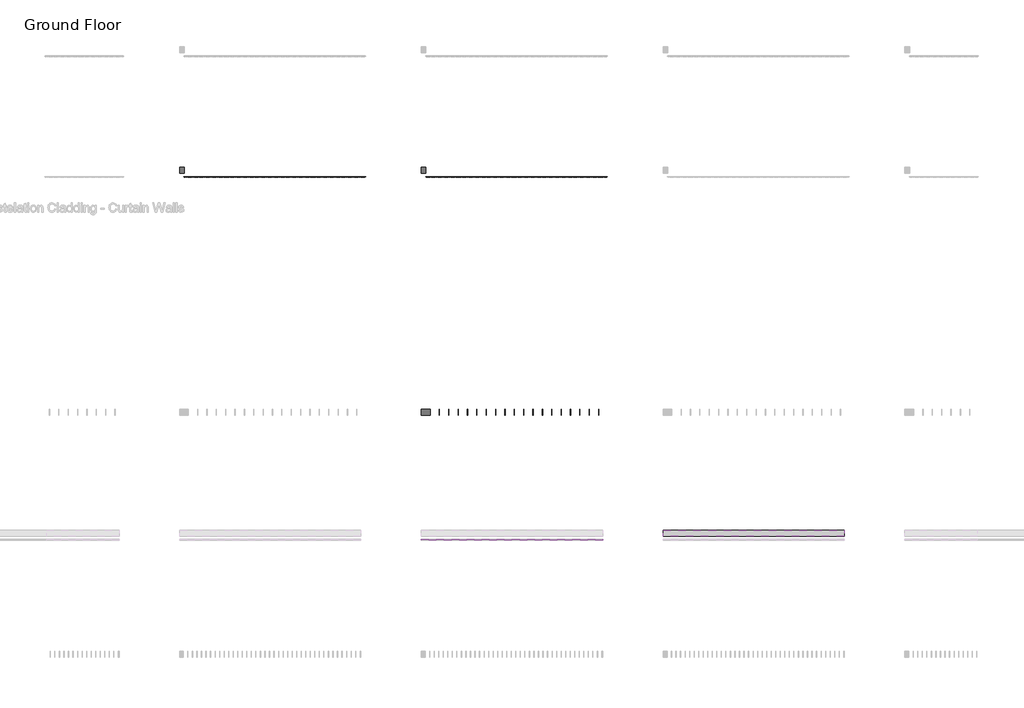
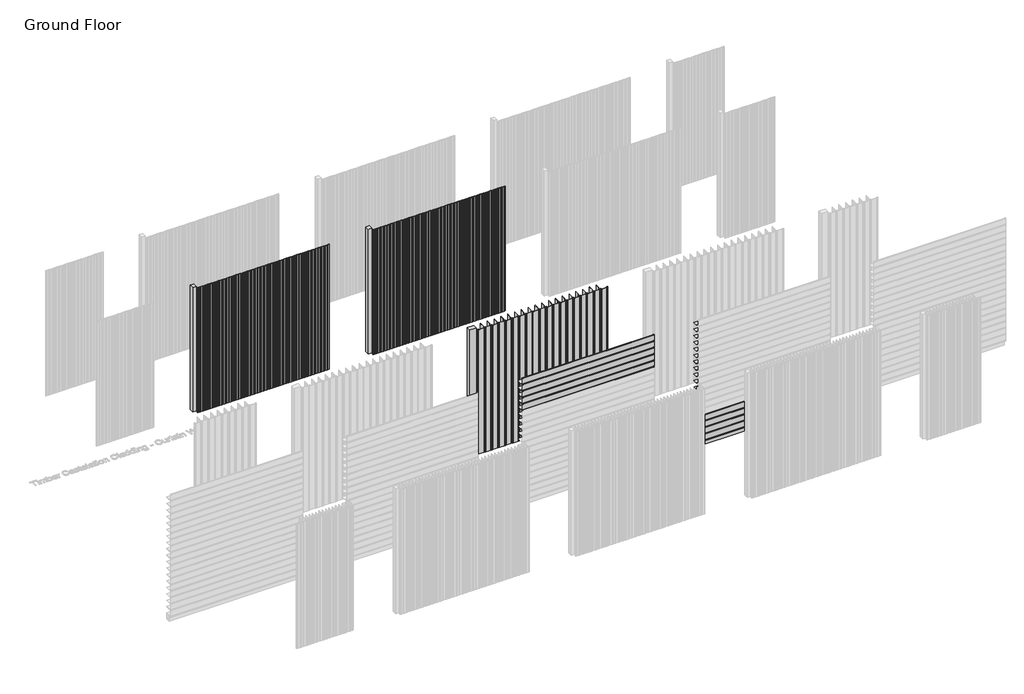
# One storey, part 38 of 350: 102 members, 40 plates.
"""IFC4 building model written with IfcOpenShell, lengths in millimetres."""

from ifc_helpers import new_model, si_unit, origin, place, context, project, spatial, transform, mapped, element, save
from components import rectangular_mullion_a9feb706, rectangular_mullion_4aa68164, empty_system_panel_empty_02c6fd44, empty_system_panel_empty_27b459cb, empty_system_panel_empty_b4bf5bb1, empty_system_panel_empty_81d7e91e, empty_system_panel_empty_cbd4e42b

model = new_model("IFC4")

# Units and contexts
model_context = context("Model", 3, world=origin())
ifc_project = project(units=[si_unit("LENGTHUNIT", "METRE", prefix="MILLI")], contexts=[model_context])

# Site, building, storey
site = spatial("IfcSite", under=ifc_project)
building = spatial("IfcBuilding", under=site)
storey = spatial("IfcBuildingStorey", under=building, Name="Ground Floor", Elevation=0.0)

# Members
placement = place(None, origin())
rectangular_mullion_shape = rectangular_mullion_a9feb706(model_context)
element("IfcMember", 1, ObjectType="Rectangular Mullion : Cladding_Aluminium_Modinex_AluSelekta_Channel_155_EnglishOak", at=placement, inside=storey, context=model_context, shape_type="MappedRepresentation", body=[
    mapped(rectangular_mullion_shape, transform((39916.4361639, 16968.2978302, 2325.0), x_axis=(0.0, 0.0, 1.0), y_axis=(0.0, -1.0, 0.0), z_axis=(1.0, 0.0, 0.0))),
])
element("IfcMember", 2, ObjectType="Rectangular Mullion : Cladding_Aluminium_Modinex_AluSelekta_Channel_155_EnglishOak", at=placement, inside=storey, context=model_context, shape_type="MappedRepresentation", body=[
    mapped(rectangular_mullion_shape, transform((39916.4361639, 16968.2978302, 2480.0), x_axis=(0.0, 0.0, 1.0), y_axis=(0.0, -1.0, 0.0), z_axis=(1.0, 0.0, 0.0))),
])
element("IfcMember", 3, ObjectType="Rectangular Mullion : Cladding_Aluminium_Modinex_AluSelekta_Channel_155_EnglishOak", at=placement, inside=storey, context=model_context, shape_type="MappedRepresentation", body=[
    mapped(rectangular_mullion_shape, transform((39916.4361639, 16968.2978302, 2635.0), x_axis=(0.0, 0.0, 1.0), y_axis=(0.0, -1.0, 0.0), z_axis=(1.0, 0.0, 0.0))),
])
element("IfcMember", 4, ObjectType="Rectangular Mullion : Cladding_Aluminium_Modinex_AluSelekta_Channel_155_EnglishOak", at=placement, inside=storey, context=model_context, shape_type="MappedRepresentation", body=[
    mapped(rectangular_mullion_shape, transform((39916.4361639, 16968.2978302, 2790.0), x_axis=(0.0, 0.0, 1.0), y_axis=(0.0, -1.0, 0.0), z_axis=(1.0, 0.0, 0.0))),
])
element("IfcMember", 5, ObjectType="Rectangular Mullion : Cladding_Aluminium_Modinex_AluSelekta_Channel_155_EnglishOak", at=placement, inside=storey, context=model_context, shape_type="MappedRepresentation", body=[
    mapped(rectangular_mullion_shape, transform((39916.4361639, 16968.2978302, 2945.0), x_axis=(0.0, 0.0, 1.0), y_axis=(0.0, -1.0, 0.0), z_axis=(1.0, 0.0, 0.0))),
])
element("IfcMember", 6, ObjectType="Rectangular Mullion : Cladding_Aluminium_Modinex_AluSelekta_Channel_155_EnglishOak", at=placement, inside=storey, context=model_context, shape_type="MappedRepresentation", body=[
    mapped(rectangular_mullion_shape, transform((37226.4361642, 18968.2978302, 0.0), x_axis=(1.0, 0.0, 0.0), y_axis=(0.0, -1.0, 0.0), z_axis=(0.0, 0.0, -1.0))),
])
element("IfcMember", 7, ObjectType="Rectangular Mullion : Cladding_Aluminium_Modinex_AluSelekta_Channel_155_EnglishOak", at=placement, inside=storey, context=model_context, shape_type="MappedRepresentation", body=[
    mapped(rectangular_mullion_shape, transform((37381.4361642, 18968.2978302, 0.0), x_axis=(1.0, 0.0, 0.0), y_axis=(0.0, -1.0, 0.0), z_axis=(0.0, 0.0, -1.0))),
])
element("IfcMember", 8, ObjectType="Rectangular Mullion : Cladding_Aluminium_Modinex_AluSelekta_Channel_155_EnglishOak", at=placement, inside=storey, context=model_context, shape_type="MappedRepresentation", body=[
    mapped(rectangular_mullion_shape, transform((37536.4361642, 18968.2978302, 0.0), x_axis=(1.0, 0.0, 0.0), y_axis=(0.0, -1.0, 0.0), z_axis=(0.0, 0.0, -1.0))),
])
element("IfcMember", 9, ObjectType="Rectangular Mullion : Cladding_Aluminium_Modinex_AluSelekta_Channel_155_EnglishOak", at=placement, inside=storey, context=model_context, shape_type="MappedRepresentation", body=[
    mapped(rectangular_mullion_shape, transform((37691.4361642, 18968.2978302, 0.0), x_axis=(1.0, 0.0, 0.0), y_axis=(0.0, -1.0, 0.0), z_axis=(0.0, 0.0, -1.0))),
])
element("IfcMember", 10, ObjectType="Rectangular Mullion : Cladding_Aluminium_Modinex_AluSelekta_Channel_155_EnglishOak", at=placement, inside=storey, context=model_context, shape_type="MappedRepresentation", body=[
    mapped(rectangular_mullion_shape, transform((37846.4361642, 18968.2978302, 0.0), x_axis=(1.0, 0.0, 0.0), y_axis=(0.0, -1.0, 0.0), z_axis=(0.0, 0.0, -1.0))),
])
element("IfcMember", 11, ObjectType="Rectangular Mullion : Cladding_Aluminium_Modinex_AluSelekta_Channel_155_EnglishOak", at=placement, inside=storey, context=model_context, shape_type="MappedRepresentation", body=[
    mapped(rectangular_mullion_shape, transform((38001.4361642, 18968.2978302, 0.0), x_axis=(1.0, 0.0, 0.0), y_axis=(0.0, -1.0, 0.0), z_axis=(0.0, 0.0, -1.0))),
])
element("IfcMember", 12, ObjectType="Rectangular Mullion : Cladding_Aluminium_Modinex_AluSelekta_Channel_155_EnglishOak", at=placement, inside=storey, context=model_context, shape_type="MappedRepresentation", body=[
    mapped(rectangular_mullion_shape, transform((38156.4361642, 18968.2978302, 0.0), x_axis=(1.0, 0.0, 0.0), y_axis=(0.0, -1.0, 0.0), z_axis=(0.0, 0.0, -1.0))),
])
element("IfcMember", 13, ObjectType="Rectangular Mullion : Cladding_Aluminium_Modinex_AluSelekta_Channel_155_EnglishOak", at=placement, inside=storey, context=model_context, shape_type="MappedRepresentation", body=[
    mapped(rectangular_mullion_shape, transform((38311.4361642, 18968.2978302, 0.0), x_axis=(1.0, 0.0, 0.0), y_axis=(0.0, -1.0, 0.0), z_axis=(0.0, 0.0, -1.0))),
])
element("IfcMember", 14, ObjectType="Rectangular Mullion : Cladding_Aluminium_Modinex_AluSelekta_Channel_155_EnglishOak", at=placement, inside=storey, context=model_context, shape_type="MappedRepresentation", body=[
    mapped(rectangular_mullion_shape, transform((38466.4361642, 18968.2978302, 0.0), x_axis=(1.0, 0.0, 0.0), y_axis=(0.0, -1.0, 0.0), z_axis=(0.0, 0.0, -1.0))),
])
element("IfcMember", 15, ObjectType="Rectangular Mullion : Cladding_Aluminium_Modinex_AluSelekta_Channel_155_EnglishOak", at=placement, inside=storey, context=model_context, shape_type="MappedRepresentation", body=[
    mapped(rectangular_mullion_shape, transform((38621.4361642, 18968.2978302, 0.0), x_axis=(1.0, 0.0, 0.0), y_axis=(0.0, -1.0, 0.0), z_axis=(0.0, 0.0, -1.0))),
])
element("IfcMember", 16, ObjectType="Rectangular Mullion : Cladding_Aluminium_Modinex_AluSelekta_Channel_155_EnglishOak", at=placement, inside=storey, context=model_context, shape_type="MappedRepresentation", body=[
    mapped(rectangular_mullion_shape, transform((38776.4361642, 18968.2978302, 0.0), x_axis=(1.0, 0.0, 0.0), y_axis=(0.0, -1.0, 0.0), z_axis=(0.0, 0.0, -1.0))),
])
element("IfcMember", 17, ObjectType="Rectangular Mullion : Cladding_Aluminium_Modinex_AluSelekta_Channel_155_EnglishOak", at=placement, inside=storey, context=model_context, shape_type="MappedRepresentation", body=[
    mapped(rectangular_mullion_shape, transform((38931.4361642, 18968.2978302, 0.0), x_axis=(1.0, 0.0, 0.0), y_axis=(0.0, -1.0, 0.0), z_axis=(0.0, 0.0, -1.0))),
])
element("IfcMember", 18, ObjectType="Rectangular Mullion : Cladding_Aluminium_Modinex_AluSelekta_Channel_155_EnglishOak", at=placement, inside=storey, context=model_context, shape_type="MappedRepresentation", body=[
    mapped(rectangular_mullion_shape, transform((39086.4361642, 18968.2978302, 0.0), x_axis=(1.0, 0.0, 0.0), y_axis=(0.0, -1.0, 0.0), z_axis=(0.0, 0.0, -1.0))),
])
element("IfcMember", 19, ObjectType="Rectangular Mullion : Cladding_Aluminium_Modinex_AluSelekta_Channel_155_EnglishOak", at=placement, inside=storey, context=model_context, shape_type="MappedRepresentation", body=[
    mapped(rectangular_mullion_shape, transform((39241.4361642, 18968.2978302, 0.0), x_axis=(1.0, 0.0, 0.0), y_axis=(0.0, -1.0, 0.0), z_axis=(0.0, 0.0, -1.0))),
])
element("IfcMember", 20, ObjectType="Rectangular Mullion : Cladding_Aluminium_Modinex_AluSelekta_Channel_155_EnglishOak", at=placement, inside=storey, context=model_context, shape_type="MappedRepresentation", body=[
    mapped(rectangular_mullion_shape, transform((39396.4361642, 18968.2978302, 0.0), x_axis=(1.0, 0.0, 0.0), y_axis=(0.0, -1.0, 0.0), z_axis=(0.0, 0.0, -1.0))),
])
element("IfcMember", 21, ObjectType="Rectangular Mullion : Cladding_Aluminium_Modinex_AluSelekta_Channel_155_EnglishOak", at=placement, inside=storey, context=model_context, shape_type="MappedRepresentation", body=[
    mapped(rectangular_mullion_shape, transform((39551.4361642, 18968.2978302, 0.0), x_axis=(1.0, 0.0, 0.0), y_axis=(0.0, -1.0, 0.0), z_axis=(0.0, 0.0, -1.0))),
])
element("IfcMember", 22, ObjectType="Rectangular Mullion : Cladding_Aluminium_Modinex_AluSelekta_Channel_155_EnglishOak", at=placement, inside=storey, context=model_context, shape_type="MappedRepresentation", body=[
    mapped(rectangular_mullion_shape, transform((39706.4361642, 18968.2978302, 0.0), x_axis=(1.0, 0.0, 0.0), y_axis=(0.0, -1.0, 0.0), z_axis=(0.0, 0.0, -1.0))),
])
element("IfcMember", 23, ObjectType="Rectangular Mullion : Cladding_Aluminium_Modinex_AluSelekta_Channel_155_EnglishOak", at=placement, inside=storey, context=model_context, shape_type="MappedRepresentation", body=[
    mapped(rectangular_mullion_shape, transform((39861.4361642, 18968.2978302, 0.0), x_axis=(1.0, 0.0, 0.0), y_axis=(0.0, -1.0, 0.0), z_axis=(0.0, 0.0, -1.0))),
])
element("IfcMember", 24, ObjectType="Rectangular Mullion : Cladding_Aluminium_Modinex_AluSelekta_Channel_155_EnglishOak", at=placement, inside=storey, context=model_context, shape_type="MappedRepresentation", body=[
    mapped(rectangular_mullion_shape, transform((37071.4361642, 18968.2978302, 0.0), x_axis=(1.0, 0.0, 0.0), y_axis=(0.0, -1.0, 0.0), z_axis=(0.0, 0.0, -1.0))),
])
element("IfcMember", 25, ObjectType="Rectangular Mullion : Cladding_Aluminium_Modinex_AluSelekta_Channel_155_SpottedGum", at=placement, inside=storey, context=model_context, shape_type="MappedRepresentation", body=[
    mapped(rectangular_mullion_shape, transform((43916.4361639, 16968.2978302, 155.0), x_axis=(0.0, 0.0, 1.0), y_axis=(0.0, -1.0, 0.0), z_axis=(1.0, 0.0, 0.0))),
])
element("IfcMember", 26, ObjectType="Rectangular Mullion : Cladding_Aluminium_Modinex_AluSelekta_Channel_155_SpottedGum", at=placement, inside=storey, context=model_context, shape_type="MappedRepresentation", body=[
    mapped(rectangular_mullion_shape, transform((43916.4361639, 16968.2978302, 310.0), x_axis=(0.0, 0.0, 1.0), y_axis=(0.0, -1.0, 0.0), z_axis=(1.0, 0.0, 0.0))),
])
element("IfcMember", 27, ObjectType="Rectangular Mullion : Cladding_Aluminium_Modinex_AluSelekta_Channel_155_SpottedGum", at=placement, inside=storey, context=model_context, shape_type="MappedRepresentation", body=[
    mapped(rectangular_mullion_shape, transform((43916.4361639, 16968.2978302, 465.0), x_axis=(0.0, 0.0, 1.0), y_axis=(0.0, -1.0, 0.0), z_axis=(1.0, 0.0, 0.0))),
])
element("IfcMember", 28, ObjectType="Rectangular Mullion : Cladding_Aluminium_Modinex_AluSelekta_Channel_155_SpottedGum", at=placement, inside=storey, context=model_context, shape_type="MappedRepresentation", body=[
    mapped(rectangular_mullion_shape, transform((43916.4361639, 16968.2978302, 620.0), x_axis=(0.0, 0.0, 1.0), y_axis=(0.0, -1.0, 0.0), z_axis=(1.0, 0.0, 0.0))),
])
rectangular_mullion_2_shape = rectangular_mullion_4aa68164(model_context)
element("IfcMember", 29, ObjectType="Rectangular Mullion : Cladding_Timber_Modinex_Castelation_81x12_Blackbutt", at=placement, inside=storey, context=model_context, shape_type="MappedRepresentation", body=[
    mapped(rectangular_mullion_2_shape, transform((34536.4361642, 22968.2978302, 0.0), x_axis=(1.0, 0.0, 0.0), y_axis=(0.0, -1.0, 0.0), z_axis=(0.0, 0.0, -1.0))),
])
element("IfcMember", 30, ObjectType="Rectangular Mullion : Cladding_Timber_Modinex_Castelation_81x12_Blackbutt", at=placement, inside=storey, context=model_context, shape_type="MappedRepresentation", body=[
    mapped(rectangular_mullion_2_shape, transform((34617.4361642, 22968.2978302, 0.0), x_axis=(1.0, 0.0, 0.0), y_axis=(0.0, -1.0, 0.0), z_axis=(0.0, 0.0, -1.0))),
])
element("IfcMember", 31, ObjectType="Rectangular Mullion : Cladding_Timber_Modinex_Castelation_81x12_Blackbutt", at=placement, inside=storey, context=model_context, shape_type="MappedRepresentation", body=[
    mapped(rectangular_mullion_2_shape, transform((34698.4361642, 22968.2978302, 0.0), x_axis=(1.0, 0.0, 0.0), y_axis=(0.0, -1.0, 0.0), z_axis=(0.0, 0.0, -1.0))),
])
element("IfcMember", 32, ObjectType="Rectangular Mullion : Cladding_Timber_Modinex_Castelation_81x12_Blackbutt", at=placement, inside=storey, context=model_context, shape_type="MappedRepresentation", body=[
    mapped(rectangular_mullion_2_shape, transform((34779.4361642, 22968.2978302, 0.0), x_axis=(1.0, 0.0, 0.0), y_axis=(0.0, -1.0, 0.0), z_axis=(0.0, 0.0, -1.0))),
])
element("IfcMember", 33, ObjectType="Rectangular Mullion : Cladding_Timber_Modinex_Castelation_81x12_Blackbutt", at=placement, inside=storey, context=model_context, shape_type="MappedRepresentation", body=[
    mapped(rectangular_mullion_2_shape, transform((34860.4361642, 22968.2978302, 0.0), x_axis=(1.0, 0.0, 0.0), y_axis=(0.0, -1.0, 0.0), z_axis=(0.0, 0.0, -1.0))),
])
element("IfcMember", 34, ObjectType="Rectangular Mullion : Cladding_Timber_Modinex_Castelation_81x12_Blackbutt", at=placement, inside=storey, context=model_context, shape_type="MappedRepresentation", body=[
    mapped(rectangular_mullion_2_shape, transform((34941.4361642, 22968.2978302, 0.0), x_axis=(1.0, 0.0, 0.0), y_axis=(0.0, -1.0, 0.0), z_axis=(0.0, 0.0, -1.0))),
])
element("IfcMember", 35, ObjectType="Rectangular Mullion : Cladding_Timber_Modinex_Castelation_81x12_Blackbutt", at=placement, inside=storey, context=model_context, shape_type="MappedRepresentation", body=[
    mapped(rectangular_mullion_2_shape, transform((35022.4361642, 22968.2978302, 0.0), x_axis=(1.0, 0.0, 0.0), y_axis=(0.0, -1.0, 0.0), z_axis=(0.0, 0.0, -1.0))),
])
element("IfcMember", 36, ObjectType="Rectangular Mullion : Cladding_Timber_Modinex_Castelation_81x12_Blackbutt", at=placement, inside=storey, context=model_context, shape_type="MappedRepresentation", body=[
    mapped(rectangular_mullion_2_shape, transform((35103.4361642, 22968.2978302, 0.0), x_axis=(1.0, 0.0, 0.0), y_axis=(0.0, -1.0, 0.0), z_axis=(0.0, 0.0, -1.0))),
])
element("IfcMember", 37, ObjectType="Rectangular Mullion : Cladding_Timber_Modinex_Castelation_81x12_Blackbutt", at=placement, inside=storey, context=model_context, shape_type="MappedRepresentation", body=[
    mapped(rectangular_mullion_2_shape, transform((35184.4361642, 22968.2978302, 0.0), x_axis=(1.0, 0.0, 0.0), y_axis=(0.0, -1.0, 0.0), z_axis=(0.0, 0.0, -1.0))),
])
element("IfcMember", 38, ObjectType="Rectangular Mullion : Cladding_Timber_Modinex_Castelation_81x12_Blackbutt", at=placement, inside=storey, context=model_context, shape_type="MappedRepresentation", body=[
    mapped(rectangular_mullion_2_shape, transform((35265.4361642, 22968.2978302, 0.0), x_axis=(1.0, 0.0, 0.0), y_axis=(0.0, -1.0, 0.0), z_axis=(0.0, 0.0, -1.0))),
])
element("IfcMember", 39, ObjectType="Rectangular Mullion : Cladding_Timber_Modinex_Castelation_81x12_Blackbutt", at=placement, inside=storey, context=model_context, shape_type="MappedRepresentation", body=[
    mapped(rectangular_mullion_2_shape, transform((35346.4361642, 22968.2978302, 0.0), x_axis=(1.0, 0.0, 0.0), y_axis=(0.0, -1.0, 0.0), z_axis=(0.0, 0.0, -1.0))),
])
element("IfcMember", 40, ObjectType="Rectangular Mullion : Cladding_Timber_Modinex_Castelation_81x12_Blackbutt", at=placement, inside=storey, context=model_context, shape_type="MappedRepresentation", body=[
    mapped(rectangular_mullion_2_shape, transform((35427.4361642, 22968.2978302, 0.0), x_axis=(1.0, 0.0, 0.0), y_axis=(0.0, -1.0, 0.0), z_axis=(0.0, 0.0, -1.0))),
])
element("IfcMember", 41, ObjectType="Rectangular Mullion : Cladding_Timber_Modinex_Castelation_81x12_Blackbutt", at=placement, inside=storey, context=model_context, shape_type="MappedRepresentation", body=[
    mapped(rectangular_mullion_2_shape, transform((35508.4361642, 22968.2978302, 0.0), x_axis=(1.0, 0.0, 0.0), y_axis=(0.0, -1.0, 0.0), z_axis=(0.0, 0.0, -1.0))),
])
element("IfcMember", 42, ObjectType="Rectangular Mullion : Cladding_Timber_Modinex_Castelation_81x12_Blackbutt", at=placement, inside=storey, context=model_context, shape_type="MappedRepresentation", body=[
    mapped(rectangular_mullion_2_shape, transform((35589.4361642, 22968.2978302, 0.0), x_axis=(1.0, 0.0, 0.0), y_axis=(0.0, -1.0, 0.0), z_axis=(0.0, 0.0, -1.0))),
])
element("IfcMember", 43, ObjectType="Rectangular Mullion : Cladding_Timber_Modinex_Castelation_81x12_Blackbutt", at=placement, inside=storey, context=model_context, shape_type="MappedRepresentation", body=[
    mapped(rectangular_mullion_2_shape, transform((35670.4361642, 22968.2978302, 0.0), x_axis=(1.0, 0.0, 0.0), y_axis=(0.0, -1.0, 0.0), z_axis=(0.0, 0.0, -1.0))),
])
element("IfcMember", 44, ObjectType="Rectangular Mullion : Cladding_Timber_Modinex_Castelation_81x12_Blackbutt", at=placement, inside=storey, context=model_context, shape_type="MappedRepresentation", body=[
    mapped(rectangular_mullion_2_shape, transform((35751.4361642, 22968.2978302, 0.0), x_axis=(1.0, 0.0, 0.0), y_axis=(0.0, -1.0, 0.0), z_axis=(0.0, 0.0, -1.0))),
])
element("IfcMember", 45, ObjectType="Rectangular Mullion : Cladding_Timber_Modinex_Castelation_81x12_Blackbutt", at=placement, inside=storey, context=model_context, shape_type="MappedRepresentation", body=[
    mapped(rectangular_mullion_2_shape, transform((35832.4361642, 22968.2978302, 0.0), x_axis=(1.0, 0.0, 0.0), y_axis=(0.0, -1.0, 0.0), z_axis=(0.0, 0.0, -1.0))),
])
element("IfcMember", 46, ObjectType="Rectangular Mullion : Cladding_Timber_Modinex_Castelation_81x12_Blackbutt", at=placement, inside=storey, context=model_context, shape_type="MappedRepresentation", body=[
    mapped(rectangular_mullion_2_shape, transform((35913.4361642, 22968.2978302, 0.0), x_axis=(1.0, 0.0, 0.0), y_axis=(0.0, -1.0, 0.0), z_axis=(0.0, 0.0, -1.0))),
])
element("IfcMember", 47, ObjectType="Rectangular Mullion : Cladding_Timber_Modinex_Castelation_81x12_Blackbutt", at=placement, inside=storey, context=model_context, shape_type="MappedRepresentation", body=[
    mapped(rectangular_mullion_2_shape, transform((34455.4361642, 22968.2978302, 0.0), x_axis=(1.0, 0.0, 0.0), y_axis=(0.0, -1.0, 0.0), z_axis=(0.0, 0.0, -1.0))),
])
element("IfcMember", 48, ObjectType="Rectangular Mullion : Cladding_Timber_Modinex_Castelation_81x12_Blackbutt", at=placement, inside=storey, context=model_context, shape_type="MappedRepresentation", body=[
    mapped(rectangular_mullion_2_shape, transform((34374.4361642, 22968.2978302, 0.0), x_axis=(1.0, 0.0, 0.0), y_axis=(0.0, -1.0, 0.0), z_axis=(0.0, 0.0, -1.0))),
])
element("IfcMember", 49, ObjectType="Rectangular Mullion : Cladding_Timber_Modinex_Castelation_81x12_Blackbutt", at=placement, inside=storey, context=model_context, shape_type="MappedRepresentation", body=[
    mapped(rectangular_mullion_2_shape, transform((34293.4361642, 22968.2978302, 0.0), x_axis=(1.0, 0.0, 0.0), y_axis=(0.0, -1.0, 0.0), z_axis=(0.0, 0.0, -1.0))),
])
element("IfcMember", 50, ObjectType="Rectangular Mullion : Cladding_Timber_Modinex_Castelation_81x12_Blackbutt", at=placement, inside=storey, context=model_context, shape_type="MappedRepresentation", body=[
    mapped(rectangular_mullion_2_shape, transform((34212.4361642, 22968.2978302, 0.0), x_axis=(1.0, 0.0, 0.0), y_axis=(0.0, -1.0, 0.0), z_axis=(0.0, 0.0, -1.0))),
])
element("IfcMember", 51, ObjectType="Rectangular Mullion : Cladding_Timber_Modinex_Castelation_81x12_Blackbutt", at=placement, inside=storey, context=model_context, shape_type="MappedRepresentation", body=[
    mapped(rectangular_mullion_2_shape, transform((34131.4361642, 22968.2978302, 0.0), x_axis=(1.0, 0.0, 0.0), y_axis=(0.0, -1.0, 0.0), z_axis=(0.0, 0.0, -1.0))),
])
element("IfcMember", 52, ObjectType="Rectangular Mullion : Cladding_Timber_Modinex_Castelation_81x12_Blackbutt", at=placement, inside=storey, context=model_context, shape_type="MappedRepresentation", body=[
    mapped(rectangular_mullion_2_shape, transform((34050.4361642, 22968.2978302, 0.0), x_axis=(1.0, 0.0, 0.0), y_axis=(0.0, -1.0, 0.0), z_axis=(0.0, 0.0, -1.0))),
])
element("IfcMember", 53, ObjectType="Rectangular Mullion : Cladding_Timber_Modinex_Castelation_81x12_Blackbutt", at=placement, inside=storey, context=model_context, shape_type="MappedRepresentation", body=[
    mapped(rectangular_mullion_2_shape, transform((33969.4361642, 22968.2978302, 0.0), x_axis=(1.0, 0.0, 0.0), y_axis=(0.0, -1.0, 0.0), z_axis=(0.0, 0.0, -1.0))),
])
element("IfcMember", 54, ObjectType="Rectangular Mullion : Cladding_Timber_Modinex_Castelation_81x12_Blackbutt", at=placement, inside=storey, context=model_context, shape_type="MappedRepresentation", body=[
    mapped(rectangular_mullion_2_shape, transform((33888.4361642, 22968.2978302, 0.0), x_axis=(1.0, 0.0, 0.0), y_axis=(0.0, -1.0, 0.0), z_axis=(0.0, 0.0, -1.0))),
])
element("IfcMember", 55, ObjectType="Rectangular Mullion : Cladding_Timber_Modinex_Castelation_81x12_Blackbutt", at=placement, inside=storey, context=model_context, shape_type="MappedRepresentation", body=[
    mapped(rectangular_mullion_2_shape, transform((33807.4361642, 22968.2978302, 0.0), x_axis=(1.0, 0.0, 0.0), y_axis=(0.0, -1.0, 0.0), z_axis=(0.0, 0.0, -1.0))),
])
element("IfcMember", 56, ObjectType="Rectangular Mullion : Cladding_Timber_Modinex_Castelation_81x12_Blackbutt", at=placement, inside=storey, context=model_context, shape_type="MappedRepresentation", body=[
    mapped(rectangular_mullion_2_shape, transform((33726.4361642, 22968.2978302, 0.0), x_axis=(1.0, 0.0, 0.0), y_axis=(0.0, -1.0, 0.0), z_axis=(0.0, 0.0, -1.0))),
])
element("IfcMember", 57, ObjectType="Rectangular Mullion : Cladding_Timber_Modinex_Castelation_81x12_Blackbutt", at=placement, inside=storey, context=model_context, shape_type="MappedRepresentation", body=[
    mapped(rectangular_mullion_2_shape, transform((33645.4361642, 22968.2978302, 0.0), x_axis=(1.0, 0.0, 0.0), y_axis=(0.0, -1.0, 0.0), z_axis=(0.0, 0.0, -1.0))),
])
element("IfcMember", 58, ObjectType="Rectangular Mullion : Cladding_Timber_Modinex_Castelation_81x12_Blackbutt", at=placement, inside=storey, context=model_context, shape_type="MappedRepresentation", body=[
    mapped(rectangular_mullion_2_shape, transform((33564.4361642, 22968.2978302, 0.0), x_axis=(1.0, 0.0, 0.0), y_axis=(0.0, -1.0, 0.0), z_axis=(0.0, 0.0, -1.0))),
])
element("IfcMember", 59, ObjectType="Rectangular Mullion : Cladding_Timber_Modinex_Castelation_81x12_Blackbutt", at=placement, inside=storey, context=model_context, shape_type="MappedRepresentation", body=[
    mapped(rectangular_mullion_2_shape, transform((33483.4361642, 22968.2978302, 0.0), x_axis=(1.0, 0.0, 0.0), y_axis=(0.0, -1.0, 0.0), z_axis=(0.0, 0.0, -1.0))),
])
element("IfcMember", 60, ObjectType="Rectangular Mullion : Cladding_Timber_Modinex_Castelation_81x12_Blackbutt", at=placement, inside=storey, context=model_context, shape_type="MappedRepresentation", body=[
    mapped(rectangular_mullion_2_shape, transform((33402.4361642, 22968.2978302, 0.0), x_axis=(1.0, 0.0, 0.0), y_axis=(0.0, -1.0, 0.0), z_axis=(0.0, 0.0, -1.0))),
])
element("IfcMember", 61, ObjectType="Rectangular Mullion : Cladding_Timber_Modinex_Castelation_81x12_Blackbutt", at=placement, inside=storey, context=model_context, shape_type="MappedRepresentation", body=[
    mapped(rectangular_mullion_2_shape, transform((33321.4361642, 22968.2978302, 0.0), x_axis=(1.0, 0.0, 0.0), y_axis=(0.0, -1.0, 0.0), z_axis=(0.0, 0.0, -1.0))),
])
element("IfcMember", 62, ObjectType="Rectangular Mullion : Cladding_Timber_Modinex_Castelation_81x12_Blackbutt", at=placement, inside=storey, context=model_context, shape_type="MappedRepresentation", body=[
    mapped(rectangular_mullion_2_shape, transform((33240.4361642, 22968.2978302, 0.0), x_axis=(1.0, 0.0, 0.0), y_axis=(0.0, -1.0, 0.0), z_axis=(0.0, 0.0, -1.0))),
])
element("IfcMember", 63, ObjectType="Rectangular Mullion : Cladding_Timber_Modinex_Castelation_81x12_Blackbutt", at=placement, inside=storey, context=model_context, shape_type="MappedRepresentation", body=[
    mapped(rectangular_mullion_2_shape, transform((33159.4361642, 22968.2978302, 0.0), x_axis=(1.0, 0.0, 0.0), y_axis=(0.0, -1.0, 0.0), z_axis=(0.0, 0.0, -1.0))),
])
element("IfcMember", 64, ObjectType="Rectangular Mullion : Cladding_Timber_Modinex_Castelation_81x12_Blackbutt", at=placement, inside=storey, context=model_context, shape_type="MappedRepresentation", body=[
    mapped(rectangular_mullion_2_shape, transform((33078.4361642, 22968.2978302, 0.0), x_axis=(1.0, 0.0, 0.0), y_axis=(0.0, -1.0, 0.0), z_axis=(0.0, 0.0, -1.0))),
])
element("IfcMember", 65, ObjectType="Rectangular Mullion : Cladding_Timber_Modinex_Castelation_81x12_Blackbutt", at=placement, inside=storey, context=model_context, shape_type="MappedRepresentation", body=[
    mapped(rectangular_mullion_2_shape, transform((32997.4361642, 22968.2978302, 0.0), x_axis=(1.0, 0.0, 0.0), y_axis=(0.0, -1.0, 0.0), z_axis=(0.0, 0.0, -1.0))),
])
element("IfcMember", 66, ObjectType="Rectangular Mullion : Cladding_Timber_Modinex_Castelation_81x12_Hemlock", at=placement, inside=storey, context=model_context, shape_type="MappedRepresentation", body=[
    mapped(rectangular_mullion_2_shape, transform((38536.4361642, 22968.2978302, 0.0), x_axis=(1.0, 0.0, 0.0), y_axis=(0.0, -1.0, 0.0), z_axis=(0.0, 0.0, -1.0))),
])
element("IfcMember", 67, ObjectType="Rectangular Mullion : Cladding_Timber_Modinex_Castelation_81x12_Hemlock", at=placement, inside=storey, context=model_context, shape_type="MappedRepresentation", body=[
    mapped(rectangular_mullion_2_shape, transform((38617.4361642, 22968.2978302, 0.0), x_axis=(1.0, 0.0, 0.0), y_axis=(0.0, -1.0, 0.0), z_axis=(0.0, 0.0, -1.0))),
])
element("IfcMember", 68, ObjectType="Rectangular Mullion : Cladding_Timber_Modinex_Castelation_81x12_Hemlock", at=placement, inside=storey, context=model_context, shape_type="MappedRepresentation", body=[
    mapped(rectangular_mullion_2_shape, transform((38698.4361642, 22968.2978302, 0.0), x_axis=(1.0, 0.0, 0.0), y_axis=(0.0, -1.0, 0.0), z_axis=(0.0, 0.0, -1.0))),
])
element("IfcMember", 69, ObjectType="Rectangular Mullion : Cladding_Timber_Modinex_Castelation_81x12_Hemlock", at=placement, inside=storey, context=model_context, shape_type="MappedRepresentation", body=[
    mapped(rectangular_mullion_2_shape, transform((38779.4361642, 22968.2978302, 0.0), x_axis=(1.0, 0.0, 0.0), y_axis=(0.0, -1.0, 0.0), z_axis=(0.0, 0.0, -1.0))),
])
element("IfcMember", 70, ObjectType="Rectangular Mullion : Cladding_Timber_Modinex_Castelation_81x12_Hemlock", at=placement, inside=storey, context=model_context, shape_type="MappedRepresentation", body=[
    mapped(rectangular_mullion_2_shape, transform((38860.4361642, 22968.2978302, 0.0), x_axis=(1.0, 0.0, 0.0), y_axis=(0.0, -1.0, 0.0), z_axis=(0.0, 0.0, -1.0))),
])
element("IfcMember", 71, ObjectType="Rectangular Mullion : Cladding_Timber_Modinex_Castelation_81x12_Hemlock", at=placement, inside=storey, context=model_context, shape_type="MappedRepresentation", body=[
    mapped(rectangular_mullion_2_shape, transform((38941.4361642, 22968.2978302, 0.0), x_axis=(1.0, 0.0, 0.0), y_axis=(0.0, -1.0, 0.0), z_axis=(0.0, 0.0, -1.0))),
])
element("IfcMember", 72, ObjectType="Rectangular Mullion : Cladding_Timber_Modinex_Castelation_81x12_Hemlock", at=placement, inside=storey, context=model_context, shape_type="MappedRepresentation", body=[
    mapped(rectangular_mullion_2_shape, transform((39022.4361642, 22968.2978302, 0.0), x_axis=(1.0, 0.0, 0.0), y_axis=(0.0, -1.0, 0.0), z_axis=(0.0, 0.0, -1.0))),
])
element("IfcMember", 73, ObjectType="Rectangular Mullion : Cladding_Timber_Modinex_Castelation_81x12_Hemlock", at=placement, inside=storey, context=model_context, shape_type="MappedRepresentation", body=[
    mapped(rectangular_mullion_2_shape, transform((39103.4361642, 22968.2978302, 0.0), x_axis=(1.0, 0.0, 0.0), y_axis=(0.0, -1.0, 0.0), z_axis=(0.0, 0.0, -1.0))),
])
element("IfcMember", 74, ObjectType="Rectangular Mullion : Cladding_Timber_Modinex_Castelation_81x12_Hemlock", at=placement, inside=storey, context=model_context, shape_type="MappedRepresentation", body=[
    mapped(rectangular_mullion_2_shape, transform((39184.4361642, 22968.2978302, 0.0), x_axis=(1.0, 0.0, 0.0), y_axis=(0.0, -1.0, 0.0), z_axis=(0.0, 0.0, -1.0))),
])
element("IfcMember", 75, ObjectType="Rectangular Mullion : Cladding_Timber_Modinex_Castelation_81x12_Hemlock", at=placement, inside=storey, context=model_context, shape_type="MappedRepresentation", body=[
    mapped(rectangular_mullion_2_shape, transform((39265.4361642, 22968.2978302, 0.0), x_axis=(1.0, 0.0, 0.0), y_axis=(0.0, -1.0, 0.0), z_axis=(0.0, 0.0, -1.0))),
])
element("IfcMember", 76, ObjectType="Rectangular Mullion : Cladding_Timber_Modinex_Castelation_81x12_Hemlock", at=placement, inside=storey, context=model_context, shape_type="MappedRepresentation", body=[
    mapped(rectangular_mullion_2_shape, transform((39346.4361642, 22968.2978302, 0.0), x_axis=(1.0, 0.0, 0.0), y_axis=(0.0, -1.0, 0.0), z_axis=(0.0, 0.0, -1.0))),
])
element("IfcMember", 77, ObjectType="Rectangular Mullion : Cladding_Timber_Modinex_Castelation_81x12_Hemlock", at=placement, inside=storey, context=model_context, shape_type="MappedRepresentation", body=[
    mapped(rectangular_mullion_2_shape, transform((39427.4361642, 22968.2978302, 0.0), x_axis=(1.0, 0.0, 0.0), y_axis=(0.0, -1.0, 0.0), z_axis=(0.0, 0.0, -1.0))),
])
element("IfcMember", 78, ObjectType="Rectangular Mullion : Cladding_Timber_Modinex_Castelation_81x12_Hemlock", at=placement, inside=storey, context=model_context, shape_type="MappedRepresentation", body=[
    mapped(rectangular_mullion_2_shape, transform((39508.4361642, 22968.2978302, 0.0), x_axis=(1.0, 0.0, 0.0), y_axis=(0.0, -1.0, 0.0), z_axis=(0.0, 0.0, -1.0))),
])
element("IfcMember", 79, ObjectType="Rectangular Mullion : Cladding_Timber_Modinex_Castelation_81x12_Hemlock", at=placement, inside=storey, context=model_context, shape_type="MappedRepresentation", body=[
    mapped(rectangular_mullion_2_shape, transform((39589.4361642, 22968.2978302, 0.0), x_axis=(1.0, 0.0, 0.0), y_axis=(0.0, -1.0, 0.0), z_axis=(0.0, 0.0, -1.0))),
])
element("IfcMember", 80, ObjectType="Rectangular Mullion : Cladding_Timber_Modinex_Castelation_81x12_Hemlock", at=placement, inside=storey, context=model_context, shape_type="MappedRepresentation", body=[
    mapped(rectangular_mullion_2_shape, transform((39670.4361642, 22968.2978302, 0.0), x_axis=(1.0, 0.0, 0.0), y_axis=(0.0, -1.0, 0.0), z_axis=(0.0, 0.0, -1.0))),
])
element("IfcMember", 81, ObjectType="Rectangular Mullion : Cladding_Timber_Modinex_Castelation_81x12_Hemlock", at=placement, inside=storey, context=model_context, shape_type="MappedRepresentation", body=[
    mapped(rectangular_mullion_2_shape, transform((39751.4361642, 22968.2978302, 0.0), x_axis=(1.0, 0.0, 0.0), y_axis=(0.0, -1.0, 0.0), z_axis=(0.0, 0.0, -1.0))),
])
element("IfcMember", 82, ObjectType="Rectangular Mullion : Cladding_Timber_Modinex_Castelation_81x12_Hemlock", at=placement, inside=storey, context=model_context, shape_type="MappedRepresentation", body=[
    mapped(rectangular_mullion_2_shape, transform((39832.4361642, 22968.2978302, 0.0), x_axis=(1.0, 0.0, 0.0), y_axis=(0.0, -1.0, 0.0), z_axis=(0.0, 0.0, -1.0))),
])
element("IfcMember", 83, ObjectType="Rectangular Mullion : Cladding_Timber_Modinex_Castelation_81x12_Hemlock", at=placement, inside=storey, context=model_context, shape_type="MappedRepresentation", body=[
    mapped(rectangular_mullion_2_shape, transform((39913.4361642, 22968.2978302, 0.0), x_axis=(1.0, 0.0, 0.0), y_axis=(0.0, -1.0, 0.0), z_axis=(0.0, 0.0, -1.0))),
])
element("IfcMember", 84, ObjectType="Rectangular Mullion : Cladding_Timber_Modinex_Castelation_81x12_Hemlock", at=placement, inside=storey, context=model_context, shape_type="MappedRepresentation", body=[
    mapped(rectangular_mullion_2_shape, transform((38455.4361642, 22968.2978302, 0.0), x_axis=(1.0, 0.0, 0.0), y_axis=(0.0, -1.0, 0.0), z_axis=(0.0, 0.0, -1.0))),
])
element("IfcMember", 85, ObjectType="Rectangular Mullion : Cladding_Timber_Modinex_Castelation_81x12_Hemlock", at=placement, inside=storey, context=model_context, shape_type="MappedRepresentation", body=[
    mapped(rectangular_mullion_2_shape, transform((38374.4361642, 22968.2978302, 0.0), x_axis=(1.0, 0.0, 0.0), y_axis=(0.0, -1.0, 0.0), z_axis=(0.0, 0.0, -1.0))),
])
element("IfcMember", 86, ObjectType="Rectangular Mullion : Cladding_Timber_Modinex_Castelation_81x12_Hemlock", at=placement, inside=storey, context=model_context, shape_type="MappedRepresentation", body=[
    mapped(rectangular_mullion_2_shape, transform((38293.4361642, 22968.2978302, 0.0), x_axis=(1.0, 0.0, 0.0), y_axis=(0.0, -1.0, 0.0), z_axis=(0.0, 0.0, -1.0))),
])
element("IfcMember", 87, ObjectType="Rectangular Mullion : Cladding_Timber_Modinex_Castelation_81x12_Hemlock", at=placement, inside=storey, context=model_context, shape_type="MappedRepresentation", body=[
    mapped(rectangular_mullion_2_shape, transform((38212.4361642, 22968.2978302, 0.0), x_axis=(1.0, 0.0, 0.0), y_axis=(0.0, -1.0, 0.0), z_axis=(0.0, 0.0, -1.0))),
])
element("IfcMember", 88, ObjectType="Rectangular Mullion : Cladding_Timber_Modinex_Castelation_81x12_Hemlock", at=placement, inside=storey, context=model_context, shape_type="MappedRepresentation", body=[
    mapped(rectangular_mullion_2_shape, transform((38131.4361642, 22968.2978302, 0.0), x_axis=(1.0, 0.0, 0.0), y_axis=(0.0, -1.0, 0.0), z_axis=(0.0, 0.0, -1.0))),
])
element("IfcMember", 89, ObjectType="Rectangular Mullion : Cladding_Timber_Modinex_Castelation_81x12_Hemlock", at=placement, inside=storey, context=model_context, shape_type="MappedRepresentation", body=[
    mapped(rectangular_mullion_2_shape, transform((38050.4361642, 22968.2978302, 0.0), x_axis=(1.0, 0.0, 0.0), y_axis=(0.0, -1.0, 0.0), z_axis=(0.0, 0.0, -1.0))),
])
element("IfcMember", 90, ObjectType="Rectangular Mullion : Cladding_Timber_Modinex_Castelation_81x12_Hemlock", at=placement, inside=storey, context=model_context, shape_type="MappedRepresentation", body=[
    mapped(rectangular_mullion_2_shape, transform((37969.4361642, 22968.2978302, 0.0), x_axis=(1.0, 0.0, 0.0), y_axis=(0.0, -1.0, 0.0), z_axis=(0.0, 0.0, -1.0))),
])
element("IfcMember", 91, ObjectType="Rectangular Mullion : Cladding_Timber_Modinex_Castelation_81x12_Hemlock", at=placement, inside=storey, context=model_context, shape_type="MappedRepresentation", body=[
    mapped(rectangular_mullion_2_shape, transform((37888.4361642, 22968.2978302, 0.0), x_axis=(1.0, 0.0, 0.0), y_axis=(0.0, -1.0, 0.0), z_axis=(0.0, 0.0, -1.0))),
])
element("IfcMember", 92, ObjectType="Rectangular Mullion : Cladding_Timber_Modinex_Castelation_81x12_Hemlock", at=placement, inside=storey, context=model_context, shape_type="MappedRepresentation", body=[
    mapped(rectangular_mullion_2_shape, transform((37807.4361642, 22968.2978302, 0.0), x_axis=(1.0, 0.0, 0.0), y_axis=(0.0, -1.0, 0.0), z_axis=(0.0, 0.0, -1.0))),
])
element("IfcMember", 93, ObjectType="Rectangular Mullion : Cladding_Timber_Modinex_Castelation_81x12_Hemlock", at=placement, inside=storey, context=model_context, shape_type="MappedRepresentation", body=[
    mapped(rectangular_mullion_2_shape, transform((37726.4361642, 22968.2978302, 0.0), x_axis=(1.0, 0.0, 0.0), y_axis=(0.0, -1.0, 0.0), z_axis=(0.0, 0.0, -1.0))),
])
element("IfcMember", 94, ObjectType="Rectangular Mullion : Cladding_Timber_Modinex_Castelation_81x12_Hemlock", at=placement, inside=storey, context=model_context, shape_type="MappedRepresentation", body=[
    mapped(rectangular_mullion_2_shape, transform((37645.4361642, 22968.2978302, 0.0), x_axis=(1.0, 0.0, 0.0), y_axis=(0.0, -1.0, 0.0), z_axis=(0.0, 0.0, -1.0))),
])
element("IfcMember", 95, ObjectType="Rectangular Mullion : Cladding_Timber_Modinex_Castelation_81x12_Hemlock", at=placement, inside=storey, context=model_context, shape_type="MappedRepresentation", body=[
    mapped(rectangular_mullion_2_shape, transform((37564.4361642, 22968.2978302, 0.0), x_axis=(1.0, 0.0, 0.0), y_axis=(0.0, -1.0, 0.0), z_axis=(0.0, 0.0, -1.0))),
])
element("IfcMember", 96, ObjectType="Rectangular Mullion : Cladding_Timber_Modinex_Castelation_81x12_Hemlock", at=placement, inside=storey, context=model_context, shape_type="MappedRepresentation", body=[
    mapped(rectangular_mullion_2_shape, transform((37483.4361642, 22968.2978302, 0.0), x_axis=(1.0, 0.0, 0.0), y_axis=(0.0, -1.0, 0.0), z_axis=(0.0, 0.0, -1.0))),
])
element("IfcMember", 97, ObjectType="Rectangular Mullion : Cladding_Timber_Modinex_Castelation_81x12_Hemlock", at=placement, inside=storey, context=model_context, shape_type="MappedRepresentation", body=[
    mapped(rectangular_mullion_2_shape, transform((37402.4361642, 22968.2978302, 0.0), x_axis=(1.0, 0.0, 0.0), y_axis=(0.0, -1.0, 0.0), z_axis=(0.0, 0.0, -1.0))),
])
element("IfcMember", 98, ObjectType="Rectangular Mullion : Cladding_Timber_Modinex_Castelation_81x12_Hemlock", at=placement, inside=storey, context=model_context, shape_type="MappedRepresentation", body=[
    mapped(rectangular_mullion_2_shape, transform((37321.4361642, 22968.2978302, 0.0), x_axis=(1.0, 0.0, 0.0), y_axis=(0.0, -1.0, 0.0), z_axis=(0.0, 0.0, -1.0))),
])
element("IfcMember", 99, ObjectType="Rectangular Mullion : Cladding_Timber_Modinex_Castelation_81x12_Hemlock", at=placement, inside=storey, context=model_context, shape_type="MappedRepresentation", body=[
    mapped(rectangular_mullion_2_shape, transform((37240.4361642, 22968.2978302, 0.0), x_axis=(1.0, 0.0, 0.0), y_axis=(0.0, -1.0, 0.0), z_axis=(0.0, 0.0, -1.0))),
])
element("IfcMember", 100, ObjectType="Rectangular Mullion : Cladding_Timber_Modinex_Castelation_81x12_Hemlock", at=placement, inside=storey, context=model_context, shape_type="MappedRepresentation", body=[
    mapped(rectangular_mullion_2_shape, transform((37159.4361642, 22968.2978302, 0.0), x_axis=(1.0, 0.0, 0.0), y_axis=(0.0, -1.0, 0.0), z_axis=(0.0, 0.0, -1.0))),
])
element("IfcMember", 101, ObjectType="Rectangular Mullion : Cladding_Timber_Modinex_Castelation_81x12_Hemlock", at=placement, inside=storey, context=model_context, shape_type="MappedRepresentation", body=[
    mapped(rectangular_mullion_2_shape, transform((37078.4361642, 22968.2978302, 0.0), x_axis=(1.0, 0.0, 0.0), y_axis=(0.0, -1.0, 0.0), z_axis=(0.0, 0.0, -1.0))),
])
element("IfcMember", 102, ObjectType="Rectangular Mullion : Cladding_Timber_Modinex_Castelation_81x12_Hemlock", at=placement, inside=storey, context=model_context, shape_type="MappedRepresentation", body=[
    mapped(rectangular_mullion_2_shape, transform((36997.4361642, 22968.2978302, 0.0), x_axis=(1.0, 0.0, 0.0), y_axis=(0.0, -1.0, 0.0), z_axis=(0.0, 0.0, -1.0))),
])

# Plates
empty_system_panel_empty_shape = empty_system_panel_empty_02c6fd44(model_context)
element("IfcPlate", 103, ObjectType="Empty System Panel : Empty", at=placement, inside=storey, context=model_context, shape_type="MappedRepresentation", body=[
    mapped(empty_system_panel_empty_shape, transform((42416.4361639, 16968.2978302, 297.2580963), x_axis=(1.0, 0.0, 0.0), y_axis=(0.0, 1.0, 0.0), z_axis=(0.0, 0.0, 1.0))),
])
element("IfcPlate", 104, ObjectType="Empty System Panel : Empty", at=placement, inside=storey, context=model_context, shape_type="MappedRepresentation", body=[
    mapped(empty_system_panel_empty_shape, transform((42416.4361639, 16968.2978302, 452.2580963), x_axis=(1.0, 0.0, 0.0), y_axis=(0.0, 1.0, 0.0), z_axis=(0.0, 0.0, 1.0))),
])
element("IfcPlate", 105, ObjectType="Empty System Panel : Empty", at=placement, inside=storey, context=model_context, shape_type="MappedRepresentation", body=[
    mapped(empty_system_panel_empty_shape, transform((42416.4361639, 16968.2978302, 607.2580963), x_axis=(1.0, 0.0, 0.0), y_axis=(0.0, 1.0, 0.0), z_axis=(0.0, 0.0, 1.0))),
])
element("IfcPlate", 106, ObjectType="Empty System Panel : Empty", at=placement, inside=storey, context=model_context, shape_type="MappedRepresentation", body=[
    mapped(empty_system_panel_empty_shape, transform((42416.4361639, 16968.2978302, 762.2580963), x_axis=(1.0, 0.0, 0.0), y_axis=(0.0, 1.0, 0.0), z_axis=(0.0, 0.0, 1.0))),
])
element("IfcPlate", 107, ObjectType="Empty System Panel : Empty", at=placement, inside=storey, context=model_context, shape_type="MappedRepresentation", body=[
    mapped(empty_system_panel_empty_shape, transform((42416.4361639, 16968.2978302, 917.2580963), x_axis=(1.0, 0.0, 0.0), y_axis=(0.0, 1.0, 0.0), z_axis=(0.0, 0.0, 1.0))),
])
element("IfcPlate", 108, ObjectType="Empty System Panel : Empty", at=placement, inside=storey, context=model_context, shape_type="MappedRepresentation", body=[
    mapped(empty_system_panel_empty_shape, transform((42416.4361639, 16968.2978302, 1072.2580963), x_axis=(1.0, 0.0, 0.0), y_axis=(0.0, 1.0, 0.0), z_axis=(0.0, 0.0, 1.0))),
])
element("IfcPlate", 109, ObjectType="Empty System Panel : Empty", at=placement, inside=storey, context=model_context, shape_type="MappedRepresentation", body=[
    mapped(empty_system_panel_empty_shape, transform((42416.4361639, 16968.2978302, 1227.2580963), x_axis=(1.0, 0.0, 0.0), y_axis=(0.0, 1.0, 0.0), z_axis=(0.0, 0.0, 1.0))),
])
element("IfcPlate", 110, ObjectType="Empty System Panel : Empty", at=placement, inside=storey, context=model_context, shape_type="MappedRepresentation", body=[
    mapped(empty_system_panel_empty_shape, transform((42416.4361639, 16968.2978302, 1382.2580963), x_axis=(1.0, 0.0, 0.0), y_axis=(0.0, 1.0, 0.0), z_axis=(0.0, 0.0, 1.0))),
])
element("IfcPlate", 111, ObjectType="Empty System Panel : Empty", at=placement, inside=storey, context=model_context, shape_type="MappedRepresentation", body=[
    mapped(empty_system_panel_empty_shape, transform((42416.4361639, 16968.2978302, 1537.2580963), x_axis=(1.0, 0.0, 0.0), y_axis=(0.0, 1.0, 0.0), z_axis=(0.0, 0.0, 1.0))),
])
element("IfcPlate", 112, ObjectType="Empty System Panel : Empty", at=placement, inside=storey, context=model_context, shape_type="MappedRepresentation", body=[
    mapped(empty_system_panel_empty_shape, transform((42416.4361639, 16968.2978302, 1692.2580963), x_axis=(1.0, 0.0, 0.0), y_axis=(0.0, 1.0, 0.0), z_axis=(0.0, 0.0, 1.0))),
])
element("IfcPlate", 113, ObjectType="Empty System Panel : Empty", at=placement, inside=storey, context=model_context, shape_type="MappedRepresentation", body=[
    mapped(empty_system_panel_empty_shape, transform((42416.4361639, 16968.2978302, 1847.2580963), x_axis=(1.0, 0.0, 0.0), y_axis=(0.0, 1.0, 0.0), z_axis=(0.0, 0.0, 1.0))),
])
element("IfcPlate", 114, ObjectType="Empty System Panel : Empty", at=placement, inside=storey, context=model_context, shape_type="MappedRepresentation", body=[
    mapped(empty_system_panel_empty_shape, transform((42416.4361639, 16968.2978302, 2002.2580963), x_axis=(1.0, 0.0, 0.0), y_axis=(0.0, 1.0, 0.0), z_axis=(0.0, 0.0, 1.0))),
])
element("IfcPlate", 115, ObjectType="Empty System Panel : Empty", at=placement, inside=storey, context=model_context, shape_type="MappedRepresentation", body=[
    mapped(empty_system_panel_empty_shape, transform((42416.4361639, 16968.2978302, 2157.2580963), x_axis=(1.0, 0.0, 0.0), y_axis=(0.0, 1.0, 0.0), z_axis=(0.0, 0.0, 1.0))),
])
element("IfcPlate", 116, ObjectType="Empty System Panel : Empty", at=placement, inside=storey, context=model_context, shape_type="MappedRepresentation", body=[
    mapped(empty_system_panel_empty_shape, transform((42416.4361639, 16968.2978302, 2312.2580963), x_axis=(1.0, 0.0, 0.0), y_axis=(0.0, 1.0, 0.0), z_axis=(0.0, 0.0, 1.0))),
])
element("IfcPlate", 117, ObjectType="Empty System Panel : Empty", at=placement, inside=storey, context=model_context, shape_type="MappedRepresentation", body=[
    mapped(empty_system_panel_empty_shape, transform((42416.4361639, 16968.2978302, 2467.2580963), x_axis=(1.0, 0.0, 0.0), y_axis=(0.0, 1.0, 0.0), z_axis=(0.0, 0.0, 1.0))),
])
element("IfcPlate", 118, ObjectType="Empty System Panel : Empty", at=placement, inside=storey, context=model_context, shape_type="MappedRepresentation", body=[
    mapped(empty_system_panel_empty_shape, transform((42416.4361639, 16968.2978302, 2622.2580963), x_axis=(1.0, 0.0, 0.0), y_axis=(0.0, 1.0, 0.0), z_axis=(0.0, 0.0, 1.0))),
])
element("IfcPlate", 119, ObjectType="Empty System Panel : Empty", at=placement, inside=storey, context=model_context, shape_type="MappedRepresentation", body=[
    mapped(empty_system_panel_empty_shape, transform((42416.4361639, 16968.2978302, 2777.2580963), x_axis=(1.0, 0.0, 0.0), y_axis=(0.0, 1.0, 0.0), z_axis=(0.0, 0.0, 1.0))),
])
element("IfcPlate", 120, ObjectType="Empty System Panel : Empty", at=placement, inside=storey, context=model_context, shape_type="MappedRepresentation", body=[
    mapped(empty_system_panel_empty_shape, transform((42416.4361639, 16968.2978302, 2932.2580963), x_axis=(1.0, 0.0, 0.0), y_axis=(0.0, 1.0, 0.0), z_axis=(0.0, 0.0, 1.0))),
])
empty_system_panel_empty_2_shape = empty_system_panel_empty_27b459cb(model_context)
element("IfcPlate", 121, ObjectType="Empty System Panel : Empty", at=placement, inside=storey, context=model_context, shape_type="MappedRepresentation", body=[
    mapped(empty_system_panel_empty_2_shape, transform((37369.9529326, 18968.2978302, 0.0), x_axis=(1.0, 0.0, 0.0), y_axis=(0.0, 1.0, 0.0), z_axis=(0.0, 0.0, 1.0))),
])
element("IfcPlate", 122, ObjectType="Empty System Panel : Empty", at=placement, inside=storey, context=model_context, shape_type="MappedRepresentation", body=[
    mapped(empty_system_panel_empty_2_shape, transform((37524.9529326, 18968.2978302, 0.0), x_axis=(1.0, 0.0, 0.0), y_axis=(0.0, 1.0, 0.0), z_axis=(0.0, 0.0, 1.0))),
])
element("IfcPlate", 123, ObjectType="Empty System Panel : Empty", at=placement, inside=storey, context=model_context, shape_type="MappedRepresentation", body=[
    mapped(empty_system_panel_empty_2_shape, transform((37679.9529326, 18968.2978302, 0.0), x_axis=(1.0, 0.0, 0.0), y_axis=(0.0, 1.0, 0.0), z_axis=(0.0, 0.0, 1.0))),
])
element("IfcPlate", 124, ObjectType="Empty System Panel : Empty", at=placement, inside=storey, context=model_context, shape_type="MappedRepresentation", body=[
    mapped(empty_system_panel_empty_2_shape, transform((37834.9529326, 18968.2978302, 0.0), x_axis=(1.0, 0.0, 0.0), y_axis=(0.0, 1.0, 0.0), z_axis=(0.0, 0.0, 1.0))),
])
element("IfcPlate", 125, ObjectType="Empty System Panel : Empty", at=placement, inside=storey, context=model_context, shape_type="MappedRepresentation", body=[
    mapped(empty_system_panel_empty_2_shape, transform((37989.9529326, 18968.2978302, 0.0), x_axis=(1.0, 0.0, 0.0), y_axis=(0.0, 1.0, 0.0), z_axis=(0.0, 0.0, 1.0))),
])
element("IfcPlate", 126, ObjectType="Empty System Panel : Empty", at=placement, inside=storey, context=model_context, shape_type="MappedRepresentation", body=[
    mapped(empty_system_panel_empty_2_shape, transform((38144.9529326, 18968.2978302, 0.0), x_axis=(1.0, 0.0, 0.0), y_axis=(0.0, 1.0, 0.0), z_axis=(0.0, 0.0, 1.0))),
])
element("IfcPlate", 127, ObjectType="Empty System Panel : Empty", at=placement, inside=storey, context=model_context, shape_type="MappedRepresentation", body=[
    mapped(empty_system_panel_empty_2_shape, transform((38299.9529326, 18968.2978302, 0.0), x_axis=(1.0, 0.0, 0.0), y_axis=(0.0, 1.0, 0.0), z_axis=(0.0, 0.0, 1.0))),
])
element("IfcPlate", 128, ObjectType="Empty System Panel : Empty", at=placement, inside=storey, context=model_context, shape_type="MappedRepresentation", body=[
    mapped(empty_system_panel_empty_2_shape, transform((38454.9529326, 18968.2978302, 0.0), x_axis=(1.0, 0.0, 0.0), y_axis=(0.0, 1.0, 0.0), z_axis=(0.0, 0.0, 1.0))),
])
element("IfcPlate", 129, ObjectType="Empty System Panel : Empty", at=placement, inside=storey, context=model_context, shape_type="MappedRepresentation", body=[
    mapped(empty_system_panel_empty_2_shape, transform((38609.9529326, 18968.2978302, 0.0), x_axis=(1.0, 0.0, 0.0), y_axis=(0.0, 1.0, 0.0), z_axis=(0.0, 0.0, 1.0))),
])
element("IfcPlate", 130, ObjectType="Empty System Panel : Empty", at=placement, inside=storey, context=model_context, shape_type="MappedRepresentation", body=[
    mapped(empty_system_panel_empty_2_shape, transform((38764.9529326, 18968.2978302, 0.0), x_axis=(1.0, 0.0, 0.0), y_axis=(0.0, 1.0, 0.0), z_axis=(0.0, 0.0, 1.0))),
])
element("IfcPlate", 131, ObjectType="Empty System Panel : Empty", at=placement, inside=storey, context=model_context, shape_type="MappedRepresentation", body=[
    mapped(empty_system_panel_empty_2_shape, transform((38919.9529326, 18968.2978302, 0.0), x_axis=(1.0, 0.0, 0.0), y_axis=(0.0, 1.0, 0.0), z_axis=(0.0, 0.0, 1.0))),
])
element("IfcPlate", 132, ObjectType="Empty System Panel : Empty", at=placement, inside=storey, context=model_context, shape_type="MappedRepresentation", body=[
    mapped(empty_system_panel_empty_2_shape, transform((39074.9529326, 18968.2978302, 0.0), x_axis=(1.0, 0.0, 0.0), y_axis=(0.0, 1.0, 0.0), z_axis=(0.0, 0.0, 1.0))),
])
element("IfcPlate", 133, ObjectType="Empty System Panel : Empty", at=placement, inside=storey, context=model_context, shape_type="MappedRepresentation", body=[
    mapped(empty_system_panel_empty_2_shape, transform((39229.9529326, 18968.2978302, 0.0), x_axis=(1.0, 0.0, 0.0), y_axis=(0.0, 1.0, 0.0), z_axis=(0.0, 0.0, 1.0))),
])
element("IfcPlate", 134, ObjectType="Empty System Panel : Empty", at=placement, inside=storey, context=model_context, shape_type="MappedRepresentation", body=[
    mapped(empty_system_panel_empty_2_shape, transform((39384.9529326, 18968.2978302, 0.0), x_axis=(1.0, 0.0, 0.0), y_axis=(0.0, 1.0, 0.0), z_axis=(0.0, 0.0, 1.0))),
])
element("IfcPlate", 135, ObjectType="Empty System Panel : Empty", at=placement, inside=storey, context=model_context, shape_type="MappedRepresentation", body=[
    mapped(empty_system_panel_empty_2_shape, transform((39539.9529326, 18968.2978302, 0.0), x_axis=(1.0, 0.0, 0.0), y_axis=(0.0, 1.0, 0.0), z_axis=(0.0, 0.0, 1.0))),
])
element("IfcPlate", 136, ObjectType="Empty System Panel : Empty", at=placement, inside=storey, context=model_context, shape_type="MappedRepresentation", body=[
    mapped(empty_system_panel_empty_2_shape, transform((39694.9529326, 18968.2978302, 0.0), x_axis=(1.0, 0.0, 0.0), y_axis=(0.0, 1.0, 0.0), z_axis=(0.0, 0.0, 1.0))),
])
element("IfcPlate", 137, ObjectType="Empty System Panel : Empty", at=placement, inside=storey, context=model_context, shape_type="MappedRepresentation", body=[
    mapped(empty_system_panel_empty_2_shape, transform((39849.9529326, 18968.2978302, 0.0), x_axis=(1.0, 0.0, 0.0), y_axis=(0.0, 1.0, 0.0), z_axis=(0.0, 0.0, 1.0))),
])
element("IfcPlate", 138, ObjectType="Empty System Panel : Empty", at=placement, inside=storey, context=model_context, shape_type="MappedRepresentation", body=[
    mapped(empty_system_panel_empty_2_shape, transform((37214.9529326, 18968.2978302, 0.0), x_axis=(1.0, 0.0, 0.0), y_axis=(0.0, 1.0, 0.0), z_axis=(0.0, 0.0, 1.0))),
])
empty_system_panel_empty_3_shape = empty_system_panel_empty_b4bf5bb1(model_context)
element("IfcPlate", 139, ObjectType="Empty System Panel : Empty", at=placement, inside=storey, context=model_context, shape_type="MappedRepresentation", body=[
    mapped(empty_system_panel_empty_3_shape, transform((42416.4361639, 16968.2978302, 0.0), x_axis=(1.0, 0.0, 0.0), y_axis=(0.0, 1.0, 0.0), z_axis=(0.0, 0.0, 1.0))),
])
empty_system_panel_empty_4_shape = empty_system_panel_empty_81d7e91e(model_context)
element("IfcPlate", 140, ObjectType="Empty System Panel : Empty", at=placement, inside=storey, context=model_context, shape_type="MappedRepresentation", body=[
    mapped(empty_system_panel_empty_4_shape, transform((36988.8238843, 18968.2978302, 0.0), x_axis=(1.0, 0.0, 0.0), y_axis=(0.0, 1.0, 0.0), z_axis=(0.0, 0.0, 1.0))),
])
empty_system_panel_empty_5_shape = empty_system_panel_empty_cbd4e42b(model_context)
element("IfcPlate", 141, ObjectType="Empty System Panel : Empty", at=placement, inside=storey, context=model_context, shape_type="MappedRepresentation", body=[
    mapped(empty_system_panel_empty_5_shape, transform((32954.4602384, 22968.2978302, 0.0), x_axis=(1.0, 0.0, 0.0), y_axis=(0.0, 1.0, 0.0), z_axis=(0.0, 0.0, 1.0))),
])
element("IfcPlate", 142, ObjectType="Empty System Panel : Empty", at=placement, inside=storey, context=model_context, shape_type="MappedRepresentation", body=[
    mapped(empty_system_panel_empty_5_shape, transform((36954.4602384, 22968.2978302, 0.0), x_axis=(1.0, 0.0, 0.0), y_axis=(0.0, 1.0, 0.0), z_axis=(0.0, 0.0, 1.0))),
])

save(model, "model.ifc")
